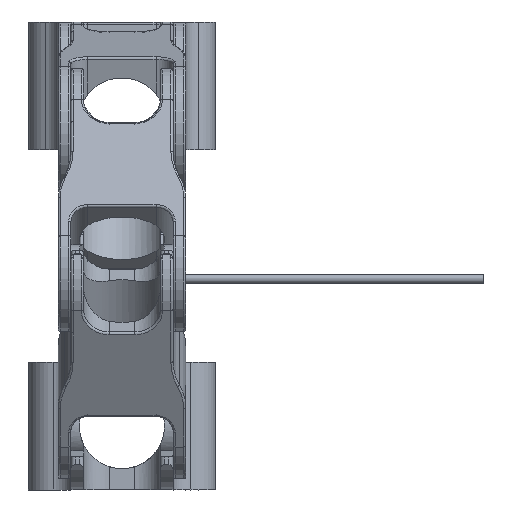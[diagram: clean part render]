
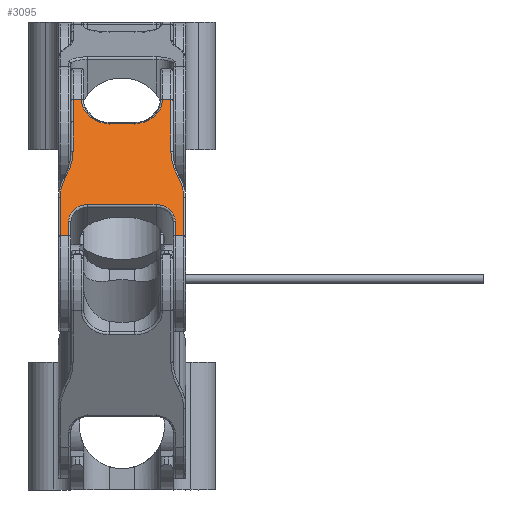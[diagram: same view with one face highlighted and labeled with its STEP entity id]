
A CAD part, front view. The second image highlights one B-rep face of the part: STEP entity #3095.
In plain terms, the highlighted planar face has unit normal (0, -0.866, 0.5) as drawn and (0, 1, 0) by its records, which use the part's own axes.
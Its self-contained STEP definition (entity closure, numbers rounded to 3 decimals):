
#2544=CARTESIAN_POINT('',(145.596,190.713,1.25));
#2545=VERTEX_POINT('',#2544);
#2588=CARTESIAN_POINT('',(143.596,190.713,1.25));
#2589=VERTEX_POINT('',#2588);
#2606=CARTESIAN_POINT('',(145.596,190.713,1.25));
#2607=DIRECTION('',(-1.0,0.0,0.0));
#2608=VECTOR('',#2607,2.);
#2609=LINE('',#2606,#2608);
#2610=EDGE_CURVE('',#2545,#2589,#2609,.T.);
#2652=CARTESIAN_POINT('',(141.346,190.713,3.5));
#2653=VERTEX_POINT('',#2652);
#2671=CARTESIAN_POINT('',(143.596,190.713,3.5));
#2672=DIRECTION('',(0.0,1.,0.0));
#2673=DIRECTION('',(-0.707,0.0,-0.707));
#2674=AXIS2_PLACEMENT_3D('',#2671,#2672,#2673);
#2675=CIRCLE('',#2674,2.25);
#2676=EDGE_CURVE('',#2589,#2653,#2675,.T.);
#2720=CARTESIAN_POINT('',(141.346,190.713,11.5));
#2721=VERTEX_POINT('',#2720);
#2738=CARTESIAN_POINT('',(141.346,190.713,3.5));
#2739=DIRECTION('',(0.0,0.0,1.0));
#2740=VECTOR('',#2739,8.);
#2741=LINE('',#2738,#2740);
#2742=EDGE_CURVE('',#2653,#2721,#2741,.T.);
#2784=CARTESIAN_POINT('',(143.596,190.713,13.75));
#2785=VERTEX_POINT('',#2784);
#2803=CARTESIAN_POINT('',(143.596,190.713,11.5));
#2804=DIRECTION('',(0.0,1.,0.0));
#2805=DIRECTION('',(-0.707,0.0,0.707));
#2806=AXIS2_PLACEMENT_3D('',#2803,#2804,#2805);
#2807=CIRCLE('',#2806,2.25);
#2808=EDGE_CURVE('',#2721,#2785,#2807,.T.);
#2852=CARTESIAN_POINT('',(145.596,190.713,13.75));
#2853=VERTEX_POINT('',#2852);
#2870=CARTESIAN_POINT('',(143.596,190.713,13.75));
#2871=DIRECTION('',(1.0,0.0,0.0));
#2872=VECTOR('',#2871,2.);
#2873=LINE('',#2870,#2872);
#2874=EDGE_CURVE('',#2785,#2853,#2873,.T.);
#2935=CARTESIAN_POINT('',(127.096,190.713,0.0));
#2936=DIRECTION('',(0.0,1.0,0.0));
#2937=DIRECTION('',(0.0,0.0,1.0));
#2938=AXIS2_PLACEMENT_3D('',#2935,#2936,#2937);
#2939=PLANE('',#2938);
#2940=ORIENTED_EDGE('',*,*,#2874,.F.);
#2941=ORIENTED_EDGE('',*,*,#2808,.F.);
#2942=ORIENTED_EDGE('',*,*,#2742,.F.);
#2943=ORIENTED_EDGE('',*,*,#2676,.F.);
#2944=ORIENTED_EDGE('',*,*,#2610,.F.);
#2945=CARTESIAN_POINT('',(145.596,190.713,0.25));
#2946=VERTEX_POINT('',#2945);
#2947=CARTESIAN_POINT('',(145.596,190.713,0.25));
#2948=DIRECTION('',(0.0,0.0,1.0));
#2949=VECTOR('',#2948,1.);
#2950=LINE('',#2947,#2949);
#2951=EDGE_CURVE('',#2946,#2545,#2950,.T.);
#2952=ORIENTED_EDGE('',*,*,#2951,.F.);
#2953=CARTESIAN_POINT('',(140.42,190.713,0.25));
#2954=VERTEX_POINT('',#2953);
#2955=CARTESIAN_POINT('',(140.42,190.713,0.25));
#2956=DIRECTION('',(1.0,0.0,0.0));
#2957=VECTOR('',#2956,5.176);
#2958=LINE('',#2955,#2957);
#2959=EDGE_CURVE('',#2954,#2946,#2958,.T.);
#2960=ORIENTED_EDGE('',*,*,#2959,.F.);
#2961=CARTESIAN_POINT('',(137.38,190.713,0.973));
#2962=VERTEX_POINT('',#2961);
#2963=CARTESIAN_POINT('',(140.42,190.713,7.));
#2964=DIRECTION('',(0.0,-1.,0.0));
#2965=DIRECTION('',(-0.231,0.0,-0.973));
#2966=AXIS2_PLACEMENT_3D('',#2963,#2964,#2965);
#2967=CIRCLE('',#2966,6.75);
#2968=EDGE_CURVE('',#2962,#2954,#2967,.T.);
#2969=ORIENTED_EDGE('',*,*,#2968,.F.);
#2970=CARTESIAN_POINT('',(134.115,190.713,1.75));
#2971=VERTEX_POINT('',#2970);
#2972=CARTESIAN_POINT('',(134.115,190.713,-5.5));
#2973=DIRECTION('',(0.0,1.0,0.0));
#2974=DIRECTION('',(0.231,0.0,0.973));
#2975=AXIS2_PLACEMENT_3D('',#2972,#2973,#2974);
#2976=CIRCLE('',#2975,7.25);
#2977=EDGE_CURVE('',#2971,#2962,#2976,.T.);
#2978=ORIENTED_EDGE('',*,*,#2977,.F.);
#2979=CARTESIAN_POINT('',(127.096,190.713,1.75));
#2980=VERTEX_POINT('',#2979);
#2981=CARTESIAN_POINT('',(127.096,190.713,1.75));
#2982=DIRECTION('',(1.0,0.0,0.0));
#2983=VECTOR('',#2982,7.02);
#2984=LINE('',#2981,#2983);
#2985=EDGE_CURVE('',#2980,#2971,#2984,.T.);
#2986=ORIENTED_EDGE('',*,*,#2985,.F.);
#2987=CARTESIAN_POINT('',(127.096,190.713,2.75));
#2988=VERTEX_POINT('',#2987);
#2989=CARTESIAN_POINT('',(127.096,190.713,1.75));
#2990=DIRECTION('',(0.0,0.0,1.0));
#2991=VECTOR('',#2990,1.);
#2992=LINE('',#2989,#2991);
#2993=EDGE_CURVE('',#2980,#2988,#2992,.T.);
#2994=ORIENTED_EDGE('',*,*,#2993,.T.);
#2995=CARTESIAN_POINT('',(127.115,190.713,2.75));
#2996=VERTEX_POINT('',#2995);
#2997=CARTESIAN_POINT('',(127.115,190.713,2.75));
#2998=DIRECTION('',(-1.0,0.0,0.));
#2999=VECTOR('',#2998,0.02);
#3000=LINE('',#2997,#2999);
#3001=EDGE_CURVE('',#2996,#2988,#3000,.T.);
#3002=ORIENTED_EDGE('',*,*,#3001,.F.);
#3003=CARTESIAN_POINT('',(130.365,190.713,6.));
#3004=VERTEX_POINT('',#3003);
#3005=CARTESIAN_POINT('',(127.115,190.713,6.));
#3006=DIRECTION('',(0.0,1.,0.0));
#3007=DIRECTION('',(0.707,0.0,-0.707));
#3008=AXIS2_PLACEMENT_3D('',#3005,#3006,#3007);
#3009=CIRCLE('',#3008,3.25);
#3010=EDGE_CURVE('',#3004,#2996,#3009,.T.);
#3011=ORIENTED_EDGE('',*,*,#3010,.F.);
#3012=CARTESIAN_POINT('',(130.365,190.713,9.));
#3013=VERTEX_POINT('',#3012);
#3014=CARTESIAN_POINT('',(130.365,190.713,9.));
#3015=DIRECTION('',(0.0,0.0,-1.0));
#3016=VECTOR('',#3015,3.);
#3017=LINE('',#3014,#3016);
#3018=EDGE_CURVE('',#3013,#3004,#3017,.T.);
#3019=ORIENTED_EDGE('',*,*,#3018,.F.);
#3020=CARTESIAN_POINT('',(127.115,190.713,12.25));
#3021=VERTEX_POINT('',#3020);
#3022=CARTESIAN_POINT('',(127.115,190.713,9.));
#3023=DIRECTION('',(0.0,1.0,0.0));
#3024=DIRECTION('',(0.707,0.0,0.707));
#3025=AXIS2_PLACEMENT_3D('',#3022,#3023,#3024);
#3026=CIRCLE('',#3025,3.25);
#3027=EDGE_CURVE('',#3021,#3013,#3026,.T.);
#3028=ORIENTED_EDGE('',*,*,#3027,.F.);
#3029=CARTESIAN_POINT('',(127.096,190.713,12.25));
#3030=VERTEX_POINT('',#3029);
#3031=CARTESIAN_POINT('',(127.096,190.713,12.25));
#3032=DIRECTION('',(1.0,0.0,0.0));
#3033=VECTOR('',#3032,0.02);
#3034=LINE('',#3031,#3033);
#3035=EDGE_CURVE('',#3030,#3021,#3034,.T.);
#3036=ORIENTED_EDGE('',*,*,#3035,.F.);
#3037=CARTESIAN_POINT('',(127.096,190.713,13.25));
#3038=VERTEX_POINT('',#3037);
#3039=CARTESIAN_POINT('',(127.096,190.713,12.25));
#3040=DIRECTION('',(0.0,0.0,1.0));
#3041=VECTOR('',#3040,1.);
#3042=LINE('',#3039,#3041);
#3043=EDGE_CURVE('',#3030,#3038,#3042,.T.);
#3044=ORIENTED_EDGE('',*,*,#3043,.T.);
#3045=CARTESIAN_POINT('',(130.115,190.713,13.25));
#3046=VERTEX_POINT('',#3045);
#3047=CARTESIAN_POINT('',(130.115,190.713,13.25));
#3048=DIRECTION('',(-1.0,0.0,0.0));
#3049=VECTOR('',#3048,3.02);
#3050=LINE('',#3047,#3049);
#3051=EDGE_CURVE('',#3046,#3038,#3050,.T.);
#3052=ORIENTED_EDGE('',*,*,#3051,.F.);
#3053=CARTESIAN_POINT('',(134.115,190.713,13.25));
#3054=VERTEX_POINT('',#3053);
#3055=CARTESIAN_POINT('',(134.115,190.713,13.25));
#3056=DIRECTION('',(-1.,0.0,0.));
#3057=VECTOR('',#3056,4.);
#3058=LINE('',#3055,#3057);
#3059=EDGE_CURVE('',#3054,#3046,#3058,.T.);
#3060=ORIENTED_EDGE('',*,*,#3059,.F.);
#3061=CARTESIAN_POINT('',(137.38,190.713,14.027));
#3062=VERTEX_POINT('',#3061);
#3063=CARTESIAN_POINT('',(134.115,190.713,20.5));
#3064=DIRECTION('',(0.0,1.,0.0));
#3065=DIRECTION('',(0.231,0.0,-0.973));
#3066=AXIS2_PLACEMENT_3D('',#3063,#3064,#3065);
#3067=CIRCLE('',#3066,7.25);
#3068=EDGE_CURVE('',#3062,#3054,#3067,.T.);
#3069=ORIENTED_EDGE('',*,*,#3068,.F.);
#3070=CARTESIAN_POINT('',(140.42,190.713,14.75));
#3071=VERTEX_POINT('',#3070);
#3072=CARTESIAN_POINT('',(140.42,190.713,8.));
#3073=DIRECTION('',(0.0,-1.,0.0));
#3074=DIRECTION('',(-0.231,0.0,0.973));
#3075=AXIS2_PLACEMENT_3D('',#3072,#3073,#3074);
#3076=CIRCLE('',#3075,6.75);
#3077=EDGE_CURVE('',#3071,#3062,#3076,.T.);
#3078=ORIENTED_EDGE('',*,*,#3077,.F.);
#3079=CARTESIAN_POINT('',(145.596,190.713,14.75));
#3080=VERTEX_POINT('',#3079);
#3081=CARTESIAN_POINT('',(145.596,190.713,14.75));
#3082=DIRECTION('',(-1.0,0.0,0.0));
#3083=VECTOR('',#3082,5.176);
#3084=LINE('',#3081,#3083);
#3085=EDGE_CURVE('',#3080,#3071,#3084,.T.);
#3086=ORIENTED_EDGE('',*,*,#3085,.F.);
#3087=CARTESIAN_POINT('',(145.596,190.713,13.75));
#3088=DIRECTION('',(0.0,0.0,1.0));
#3089=VECTOR('',#3088,1.);
#3090=LINE('',#3087,#3089);
#3091=EDGE_CURVE('',#2853,#3080,#3090,.T.);
#3092=ORIENTED_EDGE('',*,*,#3091,.F.);
#3093=EDGE_LOOP('',(#2940,#2941,#2942,#2943,#2944,#2952,#2960,#2969,#2978,#2986,#2994,#3002,#3011,#3019,#3028,#3036,#3044,#3052,#3060,#3069,#3078,#3086,#3092));
#3094=FACE_OUTER_BOUND('',#3093,.T.);
#3095=ADVANCED_FACE('',(#3094),#2939,.T.);
